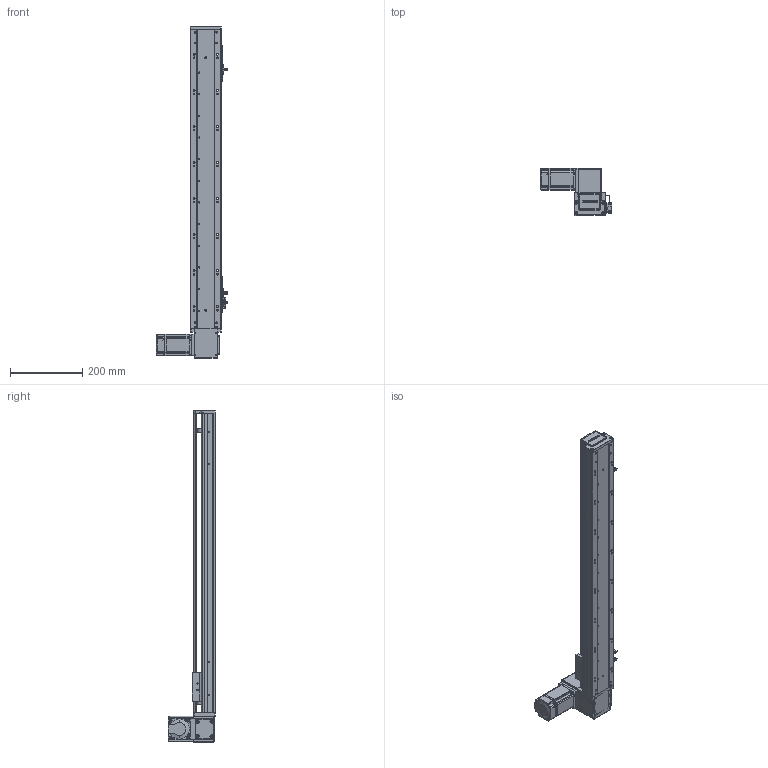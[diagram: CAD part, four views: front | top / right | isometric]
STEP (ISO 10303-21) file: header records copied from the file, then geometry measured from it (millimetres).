
FILE_DESCRIPTION (( 'STEP AP203' ), '1' );
FILE_NAME ('RY80-T-300-UL.SLDASM_650.step', '2021-03-01T02:16:42', ( '盈信电脑' ), ( '东莞市道滘镇水果街19号' ), 'SwSTEP 2.0', 'SolidWorks 2012', '' );
FILE_SCHEMA (( 'CONFIG_CONTROL_DESIGN' ));
Products named in the file (19): RY80-T-M4蹟翐2; RY80-T-上下折同步轮盖板; RY80-T-300-UL.SLDASM_650; 1; RY80-T肮祭謫奻殏俋欶; RY80-T翋肮祭謫裔啣; RY80-T粣創揤踡輸; 滅袉蝶18-10; RY80-T肮祭湍揤輸2; RY80-T萇儂假蚾啣; 覜茼ん672; RY80-T肮祭湍揤輸1; RY80俋离覜茼え; RY80-T-翋肮祭謫釱; RY80-T綴裔啣; 672嫖萇羲壽假蚾釱; RY80-T-300-UL倰第奻裔啣_650; RY80-T肮祭謫臏賑輸; RY80-T-300-UL倰第菁釱_650
Assembly tree (24 placements, depth 2):
  RY80-T-300-UL.SLDASM_650
    RY80-T-300-UL倰第菁釱_650
    RY80-T肮祭謫臏賑輸
    RY80-T-300-UL倰第奻裔啣_650
    RY80-T綴裔啣
    672嫖萇羲壽假蚾釱  x2
    覜茼ん672  x3
    RY80俋离覜茼え
    RY80-T-翋肮祭謫釱
    RY80-T肮祭湍揤輸1
    RY80-T肮祭湍揤輸2
    RY80-T萇儂假蚾啣
    RY80-T粣創揤踡輸  x2
    滅袉蝶18-10  x2
    RY80-T翋肮祭謫裔啣
    1
    RY80-T肮祭謫奻殏俋欶
    RY80-T-M4蹟翐2  x2
    RY80-T-上下折同步轮盖板
Bounding box: 198.7 x 130.5 x 920 mm (x, y, z)
Volume: 1737638.6 mm3; surface area: 714632 mm2
Topology: 24 solids, 24 shells, 2533 faces, 6976 edges, 4529 vertices
Faces by surface type: plane 1354, cylinder 973, cone 150, bspline 56
Entity records: 79451 total; most frequent: CARTESIAN_POINT 19528, ORIENTED_EDGE 12336, DIRECTION 11544, EDGE_CURVE 6168, VERTEX_POINT 4050, AXIS2_PLACEMENT_3D 3882, LINE 3780, VECTOR 3780
